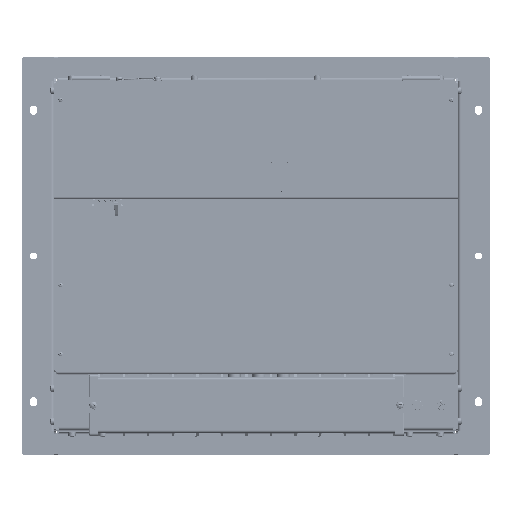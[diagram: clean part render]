
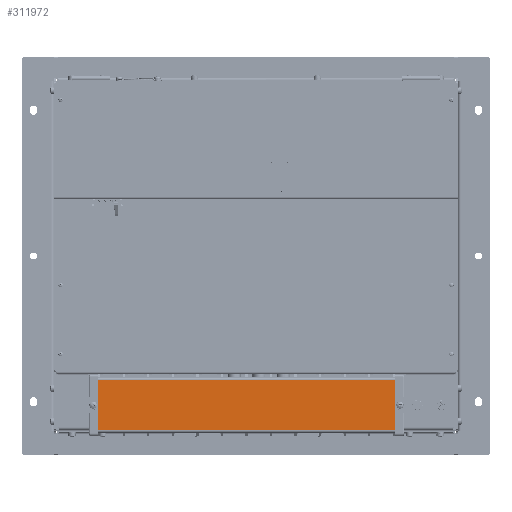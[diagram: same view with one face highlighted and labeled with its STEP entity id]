
A CAD part, top view. The second image highlights one B-rep face of the part: STEP entity #311972.
In plain terms, the highlighted planar face has unit normal (0, 0, 1).
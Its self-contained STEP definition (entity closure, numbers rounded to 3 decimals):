
#4366 = LINE ( 'NONE', #245439, #498680 ) ;
#5597 = DIRECTION ( 'NONE',  ( -1., 0., 0. ) ) ;
#10380 = LINE ( 'NONE', #406732, #588764 ) ;
#74861 = DIRECTION ( 'NONE',  ( 1., 0., 0. ) ) ;
#91859 = DIRECTION ( 'NONE',  ( -1., 0., 0. ) ) ;
#114902 = VERTEX_POINT ( 'NONE', #116075 ) ;
#116075 = CARTESIAN_POINT ( 'NONE',  ( -198.524, -230.819, 249.848 ) ) ;
#127880 = DIRECTION ( 'NONE',  ( 0., -1., 0. ) ) ;
#129402 = VECTOR ( 'NONE', #5597, 1000. ) ;
#164503 = ORIENTED_EDGE ( 'NONE', *, *, #326753, .F. ) ;
#199617 = EDGE_LOOP ( 'NONE', ( #499483, #164503, #557576, #297526 ) ) ;
#205291 = FACE_OUTER_BOUND ( 'NONE', #199617, .T. ) ;
#245439 = CARTESIAN_POINT ( 'NONE',  ( -198.524, -230.819, 249.848 ) ) ;
#250802 = EDGE_CURVE ( 'NONE', #539775, #114902, #4366, .T. ) ;
#294452 = DIRECTION ( 'NONE',  ( 0., -1., 0. ) ) ;
#297526 = ORIENTED_EDGE ( 'NONE', *, *, #250802, .T. ) ;
#303857 = AXIS2_PLACEMENT_3D ( 'NONE', #529957, #383206, #91859 ) ;
#311972 = ADVANCED_FACE ( 'NONE', ( #205291 ), #527834, .F. ) ;
#325495 = EDGE_CURVE ( 'NONE', #328650, #114902, #433868, .T. ) ;
#326753 = EDGE_CURVE ( 'NONE', #608086, #328650, #591912, .T. ) ;
#328650 = VERTEX_POINT ( 'NONE', #590795 ) ;
#344894 = EDGE_CURVE ( 'NONE', #539775, #608086, #10380, .T. ) ;
#383206 = DIRECTION ( 'NONE',  ( 0., 0., -1. ) ) ;
#406732 = CARTESIAN_POINT ( 'NONE',  ( -99.524, -164.719, 249.848 ) ) ;
#433868 = LINE ( 'NONE', #439424, #129402 ) ;
#439424 = CARTESIAN_POINT ( 'NONE',  ( -99.524, -230.819, 249.848 ) ) ;
#455226 = VECTOR ( 'NONE', #127880, 1000. ) ;
#498680 = VECTOR ( 'NONE', #294452, 1000. ) ;
#499483 = ORIENTED_EDGE ( 'NONE', *, *, #325495, .F. ) ;
#527834 = PLANE ( 'NONE',  #303857 ) ;
#529822 = CARTESIAN_POINT ( 'NONE',  ( 188.476, -164.719, 249.848 ) ) ;
#529957 = CARTESIAN_POINT ( 'NONE',  ( -99.524, -230.819, 249.848 ) ) ;
#538124 = CARTESIAN_POINT ( 'NONE',  ( -198.524, -164.719, 249.848 ) ) ;
#539775 = VERTEX_POINT ( 'NONE', #538124 ) ;
#557576 = ORIENTED_EDGE ( 'NONE', *, *, #344894, .F. ) ;
#588764 = VECTOR ( 'NONE', #74861, 1000. ) ;
#590795 = CARTESIAN_POINT ( 'NONE',  ( 188.476, -230.819, 249.848 ) ) ;
#591912 = LINE ( 'NONE', #621058, #455226 ) ;
#608086 = VERTEX_POINT ( 'NONE', #529822 ) ;
#621058 = CARTESIAN_POINT ( 'NONE',  ( 188.476, -164.719, 249.848 ) ) ;
